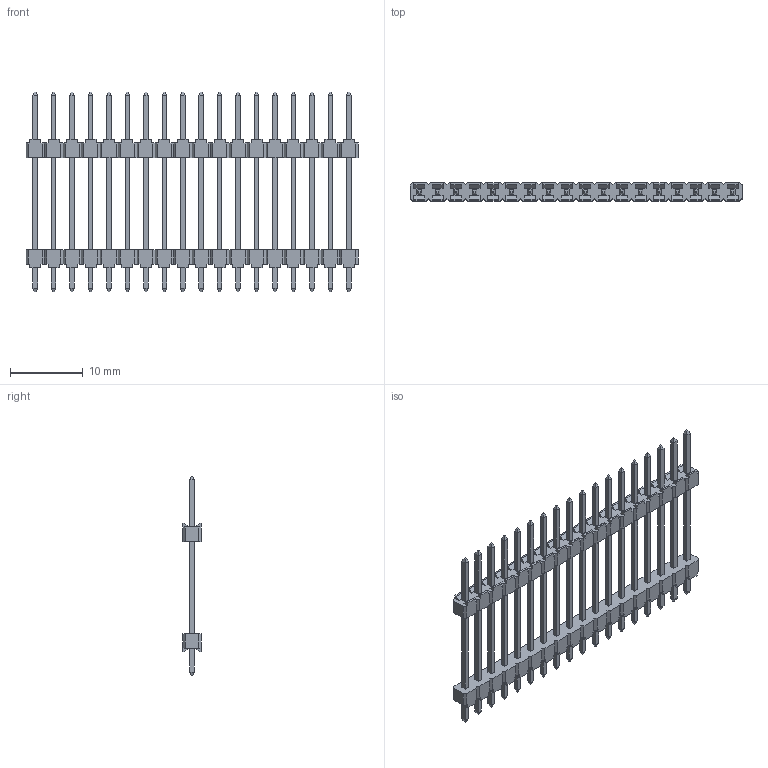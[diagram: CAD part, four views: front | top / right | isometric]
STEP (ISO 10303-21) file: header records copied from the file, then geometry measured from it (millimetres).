
FILE_DESCRIPTION(/* description */ (''),/* implementation_level */ '2;1');
FILE_NAME(/* name */ '961418-9040804-XX',/* time_stamp */ '2007-06-14T17:39:07+02:00',/* author */ (''),/* organization */ (''),/* preprocessor_version */ 'ST-DEVELOPER v9',/* originating_system */ 'UGS - NX 3.0',/* authorisation */ '');
FILE_SCHEMA (('AUTOMOTIVE_DESIGN { 1 0 10303 214 1 1 1 1 }'));
Length unit declared in the file: millimetre
Products named in the file (1): 961418-9040804-XX
Bounding box: 45.72 x 2.5 x 27.5 mm (x, y, z)
Volume: 637.7 mm3; surface area: 2007.7 mm2
Topology: 1 solids, 1 shells, 984 faces, 2688 edges, 1744 vertices
Faces by surface type: plane 984
Entity records: 30352 total; most frequent: CARTESIAN_POINT 5417, ORIENTED_EDGE 5376, DIRECTION 4658, EDGE_CURVE 2688, LINE 2688, VECTOR 2688, VERTEX_POINT 1744, EDGE_LOOP 1056
